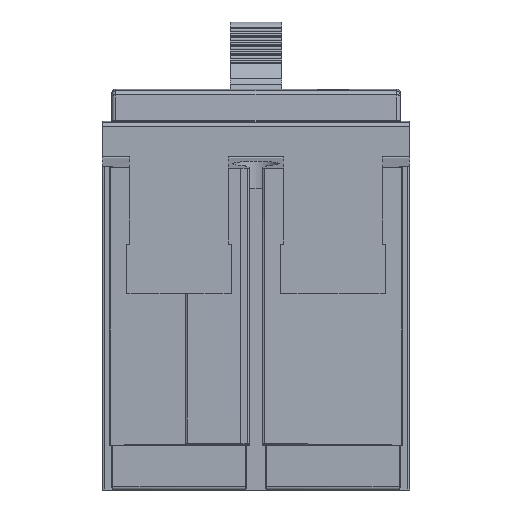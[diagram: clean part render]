
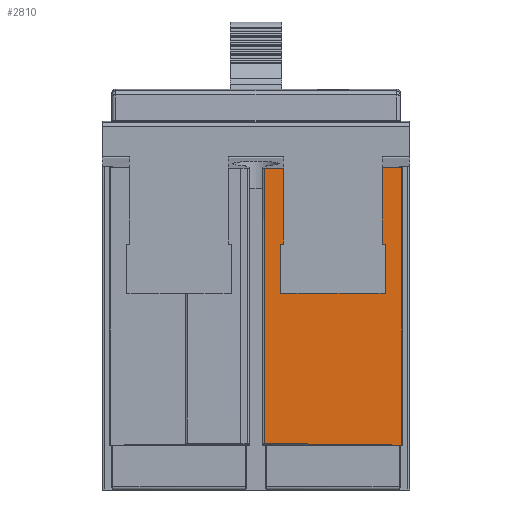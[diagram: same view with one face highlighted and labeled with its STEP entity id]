
A CAD part, front view. The second image highlights one B-rep face of the part: STEP entity #2810.
In plain terms, the highlighted cylindrical face has radius 1325.21 mm (diameter 2650.42 mm), a partial arc.
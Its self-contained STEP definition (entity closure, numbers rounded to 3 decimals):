
#4 = EDGE_CURVE ( 'NONE', #1412, #4752, #2040, .T. ) ;
#102 = ORIENTED_EDGE ( 'NONE', *, *, #3330, .F. ) ;
#169 = VERTEX_POINT ( 'NONE', #3459 ) ;
#291 = CIRCLE ( 'NONE', #9671, 1325.21 ) ;
#308 = CARTESIAN_POINT ( 'NONE',  ( 2.368, -49.167, 40.343 ) ) ;
#385 = CARTESIAN_POINT ( 'NONE',  ( 4.5, -49.141, 40.346 ) ) ;
#421 = LINE ( 'NONE', #5375, #3029 ) ;
#597 = LINE ( 'NONE', #7716, #4738 ) ;
#687 = DIRECTION ( 'NONE',  ( 1., 0., 0. ) ) ;
#775 = CARTESIAN_POINT ( 'NONE',  ( 4., -49.147, 28. ) ) ;
#1112 = CYLINDRICAL_SURFACE ( 'NONE', #10788, 1325.21 ) ;
#1126 = ORIENTED_EDGE ( 'NONE', *, *, #4, .T. ) ;
#1213 = DIRECTION ( 'NONE',  ( 0., 0., -1. ) ) ;
#1226 = CARTESIAN_POINT ( 'NONE',  ( 1.302, -49.178, -4.434 ) ) ;
#1412 = VERTEX_POINT ( 'NONE', #5812 ) ;
#1477 = CARTESIAN_POINT ( 'NONE',  ( 22.637, -48.785, 40.389 ) ) ;
#1844 = DIRECTION ( 'NONE',  ( 0., 0., -1. ) ) ;
#1981 = EDGE_CURVE ( 'NONE', #11263, #7489, #3663, .T. ) ;
#2006 = CARTESIAN_POINT ( 'NONE',  ( 4., -49.147, 20. ) ) ;
#2040 = B_SPLINE_CURVE_WITH_KNOTS ( 'NONE', 3,
 ( #385, #4741, #308, #9123 ),
 .UNSPECIFIED., .F., .F.,
 ( 4, 4 ),
 ( 0.021, 0.024 ),
 .UNSPECIFIED. ) ;
#2463 = ORIENTED_EDGE ( 'NONE', *, *, #3469, .T. ) ;
#2641 = DIRECTION ( 'NONE',  ( 1., 0., 0. ) ) ;
#2660 = DIRECTION ( 'NONE',  ( 0., 0., 1. ) ) ;
#2717 = ORIENTED_EDGE ( 'NONE', *, *, #6444, .T. ) ;
#2734 = EDGE_CURVE ( 'NONE', #169, #7116, #3598, .T. ) ;
#2810 = ADVANCED_FACE ( 'NONE', ( #4996 ), #1112, .T. ) ;
#2814 = EDGE_CURVE ( 'NONE', #4791, #169, #291, .T. ) ;
#2858 = CARTESIAN_POINT ( 'NONE',  ( 20.5, -48.839, 64.112 ) ) ;
#2869 = CARTESIAN_POINT ( 'NONE',  ( -12.5, 1275.96, 20. ) ) ;
#3013 = CARTESIAN_POINT ( 'NONE',  ( 1.302, -49.178, 40.341 ) ) ;
#3029 = VECTOR ( 'NONE', #1844, 1000. ) ;
#3083 = EDGE_CURVE ( 'NONE', #11263, #7116, #8556, .T. ) ;
#3330 = EDGE_CURVE ( 'NONE', #1412, #10663, #8147, .T. ) ;
#3348 = CARTESIAN_POINT ( 'NONE',  ( -12.5, 1275.96, 28. ) ) ;
#3420 = ORIENTED_EDGE ( 'NONE', *, *, #9361, .T. ) ;
#3442 = DIRECTION ( 'NONE',  ( 0., 0., -1. ) ) ;
#3459 = CARTESIAN_POINT ( 'NONE',  ( 20.5, -48.839, 28. ) ) ;
#3469 = EDGE_CURVE ( 'NONE', #4791, #4683, #421, .T. ) ;
#3598 = LINE ( 'NONE', #2858, #10868 ) ;
#3663 = LINE ( 'NONE', #6399, #4770 ) ;
#3683 = DIRECTION ( 'NONE',  ( 0., 0., 1. ) ) ;
#4008 = EDGE_CURVE ( 'NONE', #5273, #4171, #7981, .T. ) ;
#4010 = AXIS2_PLACEMENT_3D ( 'NONE', #10720, #5318, #2641 ) ;
#4080 = CARTESIAN_POINT ( 'NONE',  ( 4.5, -49.141, 28. ) ) ;
#4171 = VERTEX_POINT ( 'NONE', #775 ) ;
#4389 = CARTESIAN_POINT ( 'NONE',  ( 4.5, -49.141, 64.112 ) ) ;
#4596 = ORIENTED_EDGE ( 'NONE', *, *, #2734, .F. ) ;
#4683 = VERTEX_POINT ( 'NONE', #9220 ) ;
#4738 = VECTOR ( 'NONE', #8589, 1000. ) ;
#4741 = CARTESIAN_POINT ( 'NONE',  ( 3.434, -49.155, 40.344 ) ) ;
#4752 = VERTEX_POINT ( 'NONE', #3013 ) ;
#4770 = VECTOR ( 'NONE', #1213, 1000. ) ;
#4791 = VERTEX_POINT ( 'NONE', #11060 ) ;
#4948 = CARTESIAN_POINT ( 'NONE',  ( 20.5, -48.839, 40.382 ) ) ;
#4996 = FACE_OUTER_BOUND ( 'NONE', #8142, .T. ) ;
#5205 = CARTESIAN_POINT ( 'NONE',  ( 8.77, -49.085, -4.569 ) ) ;
#5273 = VERTEX_POINT ( 'NONE', #2006 ) ;
#5318 = DIRECTION ( 'NONE',  ( 0., 0., -1. ) ) ;
#5375 = CARTESIAN_POINT ( 'NONE',  ( 21., -48.827, 64.112 ) ) ;
#5573 = DIRECTION ( 'NONE',  ( 1., 0., 0. ) ) ;
#5799 = VECTOR ( 'NONE', #3442, 1000. ) ;
#5812 = CARTESIAN_POINT ( 'NONE',  ( 4.5, -49.141, 40.346 ) ) ;
#6033 = CARTESIAN_POINT ( 'NONE',  ( 23.705, -48.755, 40.393 ) ) ;
#6171 = AXIS2_PLACEMENT_3D ( 'NONE', #2869, #8090, #5573 ) ;
#6392 = CARTESIAN_POINT ( 'NONE',  ( 23.705, -48.755, -4.7 ) ) ;
#6399 = CARTESIAN_POINT ( 'NONE',  ( 23.705, -48.755, 64.112 ) ) ;
#6444 = EDGE_CURVE ( 'NONE', #7798, #7489, #11090, .T. ) ;
#6584 = ORIENTED_EDGE ( 'NONE', *, *, #4008, .T. ) ;
#6751 = CARTESIAN_POINT ( 'NONE',  ( 23.705, -48.755, 40.393 ) ) ;
#6778 = CARTESIAN_POINT ( 'NONE',  ( -12.5, 1275.96, 64.112 ) ) ;
#6833 = CIRCLE ( 'NONE', #4010, 1325.21 ) ;
#6933 = ORIENTED_EDGE ( 'NONE', *, *, #8064, .F. ) ;
#7116 = VERTEX_POINT ( 'NONE', #4948 ) ;
#7489 = VERTEX_POINT ( 'NONE', #6392 ) ;
#7617 = ORIENTED_EDGE ( 'NONE', *, *, #9593, .T. ) ;
#7694 = CARTESIAN_POINT ( 'NONE',  ( 20.5, -48.839, 40.382 ) ) ;
#7712 = CARTESIAN_POINT ( 'NONE',  ( 16.238, -48.944, -4.663 ) ) ;
#7716 = CARTESIAN_POINT ( 'NONE',  ( 1.302, -49.178, 64.112 ) ) ;
#7769 = CARTESIAN_POINT ( 'NONE',  ( 21.569, -48.812, 40.386 ) ) ;
#7798 = VERTEX_POINT ( 'NONE', #1226 ) ;
#7959 = CARTESIAN_POINT ( 'NONE',  ( 4., -49.147, 64.112 ) ) ;
#7981 = LINE ( 'NONE', #7959, #10965 ) ;
#8064 = EDGE_CURVE ( 'NONE', #10663, #4171, #6833, .T. ) ;
#8090 = DIRECTION ( 'NONE',  ( 0., 0., -1. ) ) ;
#8142 = EDGE_LOOP ( 'NONE', ( #2463, #7617, #6584, #6933, #102, #1126, #3420, #2717, #8226, #9379, #4596, #10485 ) ) ;
#8147 = LINE ( 'NONE', #4389, #5799 ) ;
#8186 = CIRCLE ( 'NONE', #6171, 1325.21 ) ;
#8226 = ORIENTED_EDGE ( 'NONE', *, *, #1981, .F. ) ;
#8556 = B_SPLINE_CURVE_WITH_KNOTS ( 'NONE', 3,
 ( #6033, #1477, #7769, #7694 ),
 .UNSPECIFIED., .F., .F.,
 ( 4, 4 ),
 ( 0.001, 0.005 ),
 .UNSPECIFIED. ) ;
#8589 = DIRECTION ( 'NONE',  ( 0., 0., -1. ) ) ;
#8627 = DIRECTION ( 'NONE',  ( 0., 0., -1. ) ) ;
#8665 = CARTESIAN_POINT ( 'NONE',  ( 23.705, -48.755, -4.7 ) ) ;
#9123 = CARTESIAN_POINT ( 'NONE',  ( 1.302, -49.178, 40.341 ) ) ;
#9220 = CARTESIAN_POINT ( 'NONE',  ( 21., -48.827, 20. ) ) ;
#9265 = CARTESIAN_POINT ( 'NONE',  ( 1.302, -49.178, -4.434 ) ) ;
#9361 = EDGE_CURVE ( 'NONE', #4752, #7798, #597, .T. ) ;
#9379 = ORIENTED_EDGE ( 'NONE', *, *, #3083, .T. ) ;
#9454 = DIRECTION ( 'NONE',  ( -1., 0., 0. ) ) ;
#9489 = CARTESIAN_POINT ( 'NONE',  ( 19.972, -48.857, -4.696 ) ) ;
#9593 = EDGE_CURVE ( 'NONE', #4683, #5273, #8186, .T. ) ;
#9671 = AXIS2_PLACEMENT_3D ( 'NONE', #3348, #8627, #687 ) ;
#10142 = CARTESIAN_POINT ( 'NONE',  ( 5.036, -49.139, -4.508 ) ) ;
#10485 = ORIENTED_EDGE ( 'NONE', *, *, #2814, .F. ) ;
#10663 = VERTEX_POINT ( 'NONE', #4080 ) ;
#10720 = CARTESIAN_POINT ( 'NONE',  ( -12.5, 1275.96, 28. ) ) ;
#10788 = AXIS2_PLACEMENT_3D ( 'NONE', #6778, #11302, #9454 ) ;
#10868 = VECTOR ( 'NONE', #3683, 1000. ) ;
#10965 = VECTOR ( 'NONE', #2660, 1000. ) ;
#11060 = CARTESIAN_POINT ( 'NONE',  ( 21., -48.827, 28. ) ) ;
#11090 = B_SPLINE_CURVE_WITH_KNOTS ( 'NONE', 3,
 ( #9265, #10142, #5205, #7712, #9489, #8665 ),
 .UNSPECIFIED., .F., .F.,
 ( 4, 2, 4 ),
 ( 0., 0.011, 0.022 ),
 .UNSPECIFIED. ) ;
#11263 = VERTEX_POINT ( 'NONE', #6751 ) ;
#11302 = DIRECTION ( 'NONE',  ( 0., 0., -1. ) ) ;
